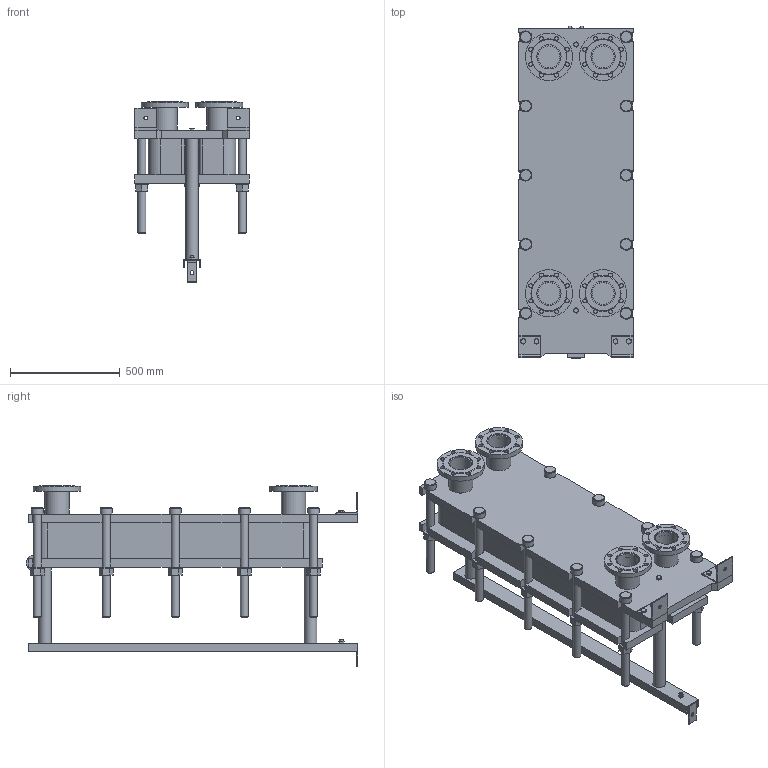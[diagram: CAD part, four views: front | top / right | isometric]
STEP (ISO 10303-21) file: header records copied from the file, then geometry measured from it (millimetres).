
FILE_DESCRIPTION(/* description */ (''),/* implementation_level */ '2;1');
FILE_NAME(/* name */ 'C:\Users\zhuro\Desktop\ENCO\TO\ЭН-04\ЭН-0,5-04-47-1.stp',/* time_stamp */ '2022-06-06T10:48:08+03:00',/* author */ ('zhuro'),/* organization */ (''),/* preprocessor_version */ 'ST-DEVELOPER v18.1',/* originating_system */ 'Autodesk Inventor 2022',/* authorisation */ '');
FILE_SCHEMA (('AUTOMOTIVE_DESIGN { 1 0 10303 214 3 1 1 }'));
Length unit declared in the file: millimetre
Products named in the file (1): ЭН-0,5-04-47-1
Bounding box: 520 x 1510 x 823.5 mm (x, y, z)
Volume: 149388220.8 mm3; surface area: 7189786.9 mm2
Topology: 45 solids, 45 shells, 668 faces, 1611 edges, 1048 vertices
Faces by surface type: plane 457, cylinder 166, cone 39, torus 6
Full cylindrical faces by diameter (mm): 8 x4, 10 x2, 16 x8, 18 x35, 36 x25, 40 x2, 42 x1, 45 x4, 54 x10, 57 x2, 60 x10, 68 x2, 100 x4, 110 x8, 215 x4
Entity records: 23607 total; most frequent: CARTESIAN_POINT 7348, DIRECTION 3371, ORIENTED_EDGE 3142, EDGE_CURVE 1571, AXIS2_PLACEMENT_3D 1199, VERTEX_POINT 1044, LINE 973, VECTOR 973
